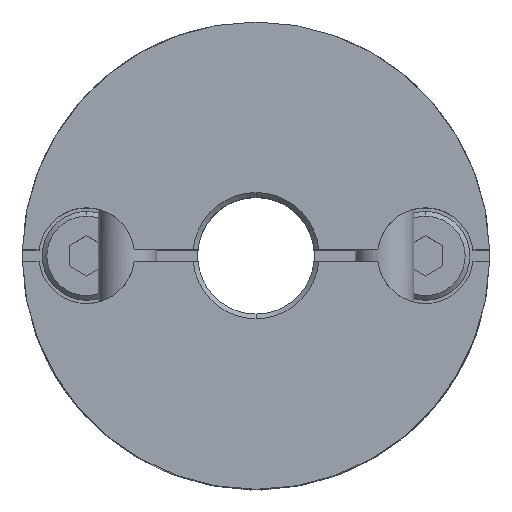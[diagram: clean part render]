
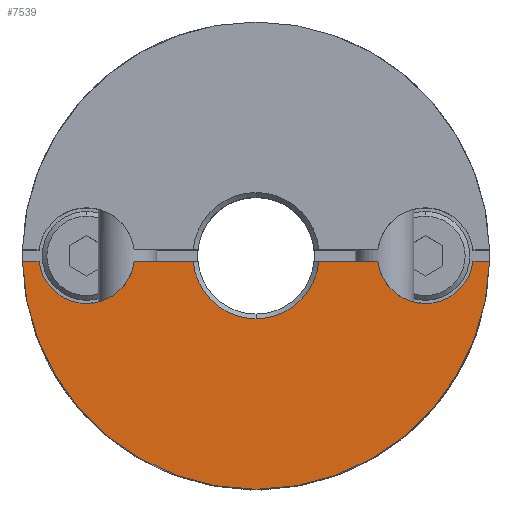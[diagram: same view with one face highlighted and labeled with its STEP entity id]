
A CAD part, top view. The second image highlights one B-rep face of the part: STEP entity #7539.
In plain terms, the highlighted planar face has unit normal (0, 0, 1).
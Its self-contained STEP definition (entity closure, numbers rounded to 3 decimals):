
#809=CARTESIAN_POINT('',(0.,-10.,9.4));
#810=VERTEX_POINT('',#809);
#817=CARTESIAN_POINT('',(-9.997,-0.25,9.4));
#818=VERTEX_POINT('',#817);
#819=CARTESIAN_POINT('',(0.,0.,9.4));
#820=DIRECTION('',(0.0,0.0,-1.0));
#821=DIRECTION('',(0.0,1.0,0.0));
#822=AXIS2_PLACEMENT_3D('',#819,#820,#821);
#823=CIRCLE('',#822,10.0);
#824=EDGE_CURVE('',#810,#818,#823,.T.);
#1024=CARTESIAN_POINT('',(0.,-2.7,9.4));
#1025=VERTEX_POINT('',#1024);
#1033=CARTESIAN_POINT('',(-2.688,-0.25,9.4));
#1034=VERTEX_POINT('',#1033);
#1048=CARTESIAN_POINT('',(0.,0.,9.4));
#1049=DIRECTION('',(0.0,0.0,1.0));
#1050=DIRECTION('',(0.0,-1.0,0.0));
#1051=AXIS2_PLACEMENT_3D('',#1048,#1049,#1050);
#1052=CIRCLE('',#1051,2.7);
#1053=EDGE_CURVE('',#1034,#1025,#1052,.T.);
#1345=CARTESIAN_POINT('',(-7.25,-2.05,9.4));
#1346=VERTEX_POINT('',#1345);
#1362=CARTESIAN_POINT('',(-9.285,-0.25,9.4));
#1363=VERTEX_POINT('',#1362);
#1370=CARTESIAN_POINT('',(-7.25,0.,9.4));
#1371=DIRECTION('',(0.0,0.0,-1.0));
#1372=DIRECTION('',(0.0,1.0,0.0));
#1373=AXIS2_PLACEMENT_3D('',#1370,#1371,#1372);
#1374=CIRCLE('',#1373,2.05);
#1375=EDGE_CURVE('',#1346,#1363,#1374,.T.);
#1693=CARTESIAN_POINT('',(7.25,-2.05,9.4));
#1694=VERTEX_POINT('',#1693);
#1772=CARTESIAN_POINT('',(5.215,-0.25,9.4));
#1773=VERTEX_POINT('',#1772);
#1780=CARTESIAN_POINT('',(7.25,0.,9.4));
#1781=DIRECTION('',(0.0,0.0,-1.0));
#1782=DIRECTION('',(0.0,1.0,0.0));
#1783=AXIS2_PLACEMENT_3D('',#1780,#1781,#1782);
#1784=CIRCLE('',#1783,2.05);
#1785=EDGE_CURVE('',#1694,#1773,#1784,.T.);
#5992=CARTESIAN_POINT('',(9.285,-0.25,9.4));
#5993=VERTEX_POINT('',#5992);
#5994=CARTESIAN_POINT('',(7.25,0.,9.4));
#5995=DIRECTION('',(0.0,0.0,-1.0));
#5996=DIRECTION('',(0.0,1.0,0.0));
#5997=AXIS2_PLACEMENT_3D('',#5994,#5995,#5996);
#5998=CIRCLE('',#5997,2.05);
#5999=EDGE_CURVE('',#5993,#1694,#5998,.T.);
#6444=CARTESIAN_POINT('',(-5.215,-0.25,9.4));
#6445=VERTEX_POINT('',#6444);
#6446=CARTESIAN_POINT('',(-7.25,0.,9.4));
#6447=DIRECTION('',(0.0,0.0,-1.0));
#6448=DIRECTION('',(0.0,1.0,0.0));
#6449=AXIS2_PLACEMENT_3D('',#6446,#6447,#6448);
#6450=CIRCLE('',#6449,2.05);
#6451=EDGE_CURVE('',#6445,#1346,#6450,.T.);
#6574=CARTESIAN_POINT('',(-2.688,-0.25,9.4));
#6575=DIRECTION('',(-1.0,0.0,0.0));
#6576=VECTOR('',#6575,2.527);
#6577=LINE('',#6574,#6576);
#6578=EDGE_CURVE('',#1034,#6445,#6577,.T.);
#6642=CARTESIAN_POINT('',(2.688,-0.25,9.4));
#6643=VERTEX_POINT('',#6642);
#6657=CARTESIAN_POINT('',(5.215,-0.25,9.4));
#6658=DIRECTION('',(-1.0,0.0,0.0));
#6659=VECTOR('',#6658,2.527);
#6660=LINE('',#6657,#6659);
#6661=EDGE_CURVE('',#1773,#6643,#6660,.T.);
#7317=CARTESIAN_POINT('',(9.997,-0.25,9.4));
#7318=VERTEX_POINT('',#7317);
#7319=CARTESIAN_POINT('',(9.997,-0.25,9.4));
#7320=DIRECTION('',(-1.0,0.0,0.0));
#7321=VECTOR('',#7320,0.712);
#7322=LINE('',#7319,#7321);
#7323=EDGE_CURVE('',#7318,#5993,#7322,.T.);
#7423=CARTESIAN_POINT('',(-9.285,-0.25,9.4));
#7424=DIRECTION('',(-1.0,0.0,0.0));
#7425=VECTOR('',#7424,0.712);
#7426=LINE('',#7423,#7425);
#7427=EDGE_CURVE('',#1363,#818,#7426,.T.);
#7508=CARTESIAN_POINT('',(0.,0.909,9.4));
#7509=DIRECTION('',(0.0,0.0,1.0));
#7510=DIRECTION('',(0.0,1.0,0.0));
#7511=AXIS2_PLACEMENT_3D('',#7508,#7509,#7510);
#7512=PLANE('',#7511);
#7513=ORIENTED_EDGE('',*,*,#5999,.T.);
#7514=ORIENTED_EDGE('',*,*,#1785,.T.);
#7515=ORIENTED_EDGE('',*,*,#6661,.T.);
#7516=CARTESIAN_POINT('',(0.,0.,9.4));
#7517=DIRECTION('',(0.0,0.0,1.0));
#7518=DIRECTION('',(0.0,-1.0,0.0));
#7519=AXIS2_PLACEMENT_3D('',#7516,#7517,#7518);
#7520=CIRCLE('',#7519,2.7);
#7521=EDGE_CURVE('',#1025,#6643,#7520,.T.);
#7522=ORIENTED_EDGE('',*,*,#7521,.F.);
#7523=ORIENTED_EDGE('',*,*,#1053,.F.);
#7524=ORIENTED_EDGE('',*,*,#6578,.T.);
#7525=ORIENTED_EDGE('',*,*,#6451,.T.);
#7526=ORIENTED_EDGE('',*,*,#1375,.T.);
#7527=ORIENTED_EDGE('',*,*,#7427,.T.);
#7528=ORIENTED_EDGE('',*,*,#824,.F.);
#7529=CARTESIAN_POINT('',(0.,0.,9.4));
#7530=DIRECTION('',(0.0,0.0,-1.0));
#7531=DIRECTION('',(0.0,1.0,0.0));
#7532=AXIS2_PLACEMENT_3D('',#7529,#7530,#7531);
#7533=CIRCLE('',#7532,10.0);
#7534=EDGE_CURVE('',#7318,#810,#7533,.T.);
#7535=ORIENTED_EDGE('',*,*,#7534,.F.);
#7536=ORIENTED_EDGE('',*,*,#7323,.T.);
#7537=EDGE_LOOP('',(#7513,#7514,#7515,#7522,#7523,#7524,#7525,#7526,#7527,#7528,#7535,#7536));
#7538=FACE_OUTER_BOUND('',#7537,.T.);
#7539=ADVANCED_FACE('',(#7538),#7512,.T.);
